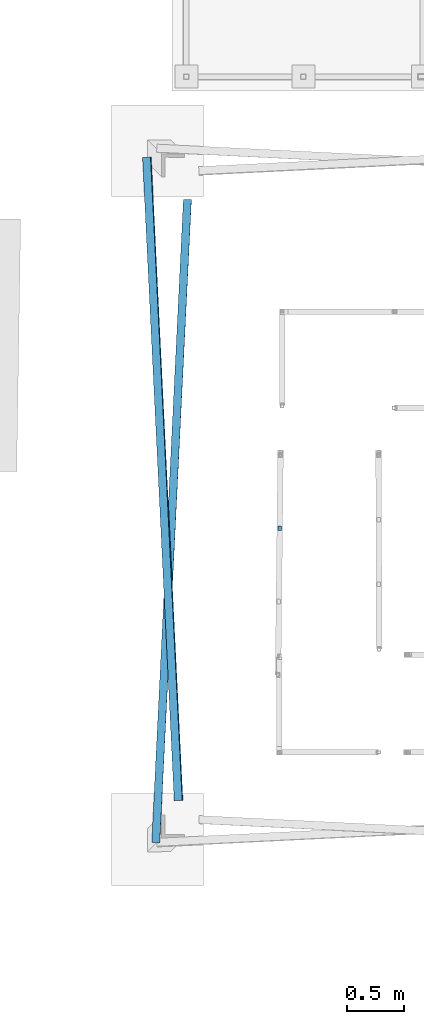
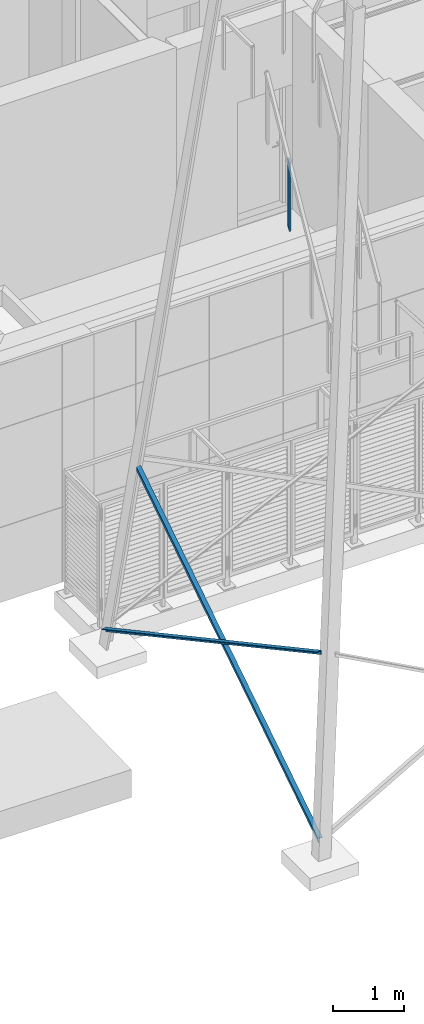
# One storey, part 8 of 418: 2 beams, 1 member, 1 element without a shape of its own.
"""IFC2X3 building model written with IfcOpenShell, lengths in millimetres."""

from ifc_helpers import new_model, entity, si_unit, converted_unit, derived_unit, money_unit, direction, frame, origin_with_axes, place, context, subcontext, project, spatial, polyline, outline, extrude, clip, halfspace, faceted_brep, source, transform, mapped, material, type_object, element, aggregate, save


model = new_model("IFC2X3")

# Units and contexts
model_context = context("Model", 3, precision=0.01, world=origin_with_axes(), true_north=direction((0.0, 1.0)))
body_context = subcontext(model_context, "Body", "Model", "MODEL_VIEW")
ifc_project = project(units=[si_unit("LENGTHUNIT", "METRE", prefix="MILLI"), si_unit("AREAUNIT", "SQUARE_METRE"), si_unit("VOLUMEUNIT", "CUBIC_METRE"), converted_unit("PLANEANGLEUNIT", "DEGREE", entity("IfcPlaneAngleMeasure", 0.0174532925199), si_unit("PLANEANGLEUNIT", "RADIAN"), dimensions=[0, 0, 0, 0, 0, 0, 0]), si_unit("SOLIDANGLEUNIT", "STERADIAN"), money_unit("EUR"), converted_unit("TIMEUNIT", "Year", entity("IfcTimeMeasure", 31556926.0), si_unit("TIMEUNIT", "SECOND"), dimensions=[0, 0, 1, 0, 0, 0, 0]), si_unit("MASSUNIT", "GRAM", prefix="KILO"), si_unit("THERMODYNAMICTEMPERATUREUNIT", "DEGREE_CELSIUS"), si_unit("LUMINOUSINTENSITYUNIT", "LUMEN"), si_unit("ENERGYUNIT", "JOULE", prefix="MEGA"), derived_unit("THERMALCONDUCTANCEUNIT", [(si_unit("POWERUNIT", "WATT"), 1), (si_unit("LENGTHUNIT", "METRE"), -1), (si_unit("THERMODYNAMICTEMPERATUREUNIT", "KELVIN"), -1)]), derived_unit("SPECIFICHEATCAPACITYUNIT", [(si_unit("ENERGYUNIT", "JOULE"), 1), (si_unit("MASSUNIT", "GRAM", prefix="KILO"), -1), (si_unit("THERMODYNAMICTEMPERATUREUNIT", "KELVIN"), -1)]), derived_unit("MASSDENSITYUNIT", [(si_unit("MASSUNIT", "GRAM", prefix="KILO"), 1), (si_unit("VOLUMEUNIT", "CUBIC_METRE"), -1)])], contexts=[model_context])

# Site, building, storey
site_placement = place(None, origin_with_axes())
site = spatial("IfcSite", under=ifc_project, at=site_placement, Name="Paldiski mnt 245/1, Tallinn, Harjumaa", CompositionType="COMPLEX")
building_placement = place(site_placement, origin_with_axes())
building = spatial("IfcBuilding", under=site, at=building_placement, Name="RKAS Hoone üldnimetus (kasutust iseloomustav) -> IFC Project Manager -> SOLIBRI", CompositionType="ELEMENT")
storey_placement = place(building_placement, origin_with_axes())
storey = spatial("IfcBuildingStorey", under=building, at=storey_placement, Name="Esimene korrus", CompositionType="ELEMENT", Elevation=0.0)

# Beams
ifc_material_1 = material(Name="SV-03_Plaat - Põrand")
beam_type = type_object("IfcBeamType", Name="TORN_KONST_5 70 x 70", PredefinedType="BEAM")
beam_1_placement = place(storey_placement, frame((-56084.3679579, -8201.55392539, 282.411597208), z_axis=(0.0, 0.0, 1.0), x_axis=(0.998790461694, -0.049169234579, 0.0)))
element("IfcBeam", 1, at=beam_1_placement, inside=storey, type_object=beam_type, material=ifc_material_1, Name="TALA", ObjectType="BEAM", context=body_context, shape_type="Clipping", body=[
    clip(clip(extrude(outline(polyline([(0.0, 0.0), (0.0, 70.0), (-70.0, 70.0), (-70.0, 60.0), (-10.0, 60.0), (-10.0, 0.0), (0.0, 0.0)])), frame((0.0, 5654.86408347, 2928.159223), z_axis=(0.0, 0.888010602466, 0.459822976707), x_axis=(-0.996194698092, 0.0400762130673, -0.0773952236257)), (0.0, 0.0, -1.0), 6419.27497254), halfspace(frame((0.0, 0.0, 0.0), z_axis=(0.0, 1.0, 0.0), x_axis=(0.0, 0.0, 1.0)), True)), halfspace(frame((0.0, 5609.34393117, 0.0), z_axis=(0.0, -1.0, 0.0), x_axis=(0.0, 0.0, -1.0)), True)),
])
beam_2_placement = place(storey_placement, frame((-56093.8486101, -2231.74167337, 307.999958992), z_axis=(0.0, 0.0, 1.0), x_axis=(-0.998790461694, -0.0491692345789, 0.0)))
element("IfcBeam", 2, at=beam_2_placement, inside=storey, type_object=beam_type, material=ifc_material_1, Name="TALA", ObjectType="BEAM", context=body_context, shape_type="Clipping", body=[
    clip(clip(extrude(outline(polyline([(0.0, 0.0), (0.0, 70.0), (-70.0, 70.0), (-70.0, 60.0), (-10.0, 60.0), (-10.0, 0.0), (0.0, 0.0)])), frame((0.0, 5654.86408347, 2928.159223), z_axis=(0.0, 0.888010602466, 0.459822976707), x_axis=(-0.994521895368, -0.0480645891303, 0.0928223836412)), (0.0, 0.0, -1.0), 6419.27497254), halfspace(frame((0.0, 0.0, 0.0), z_axis=(0.0, 1.0, 0.0), x_axis=(0.0, 0.0, 1.0)), True)), halfspace(frame((0.0, 5609.34393117, 0.0), z_axis=(0.0, -1.0, 0.0), x_axis=(0.0, 0.0, -1.0)), True)),
])

# Railing, member
railing_type = type_object("IfcRailingType", Name="Railing Type", PredefinedType="NOTDEFINED")
railing_placement = place(storey_placement, frame((-54969.9885641, -6809.15801731, 6695.37509918), z_axis=(0.0, 0.0, 1.0), x_axis=(-0.779497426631, -0.626405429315, 0.0)))
railing = element("IfcRailing", 3, at=railing_placement, inside=storey, type_object=railing_type, Name="PIIRE", PredefinedType="NOTDEFINED")
ifc_material_2 = material(Name="ET-07_Teras - Roostevaba")
member_type = type_object("IfcMemberType", Name="IfcMember", PredefinedType="POST")
shared_shape = source(origin_with_axes(), body_context, "Body", "Brep", [
    faceted_brep([(15.0, 20.0, 34.8015954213), (-15.0, 20.0, 34.8015954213), (-15.0, 20.0, 1214.80159542), (15.0, 20.0, 1214.80159542), (15.0, -20.0, -34.8015954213), (-15.0, -20.0, -34.8015954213), (-15.0, -20.0, 1145.19840458), (15.0, -20.0, 1145.19840458)], [[[0, 1, 2, 3]], [[0, 4, 5, 1]], [[1, 5, 6, 2]], [[3, 2, 6, 7]], [[4, 0, 3, 7]], [[5, 4, 7, 6]]]),
])
member_placement = place(railing_placement, frame((-837.719598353, -1051.76510095, 2120.92012815), z_axis=(0.0, 0.0, 1.0), x_axis=(-0.779497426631, 0.626405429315, 0.0)))
member = element("IfcMember", 4, at=member_placement, type_object=member_type, material=ifc_material_2, Name="Piirde Post - 001", ObjectType="POST", context=body_context, shape_type="MappedRepresentation", body=[
    mapped(shared_shape, transform((0.0, 0.0, 0.0), x_axis=(0.99993780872, -0.011152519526, 0.0), y_axis=(0.011152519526, 0.99993780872, 0.0), z_axis=(0.0, 0.0, 1.0))),
])
aggregate(railing, [member])

save(model, "model.ifc")
